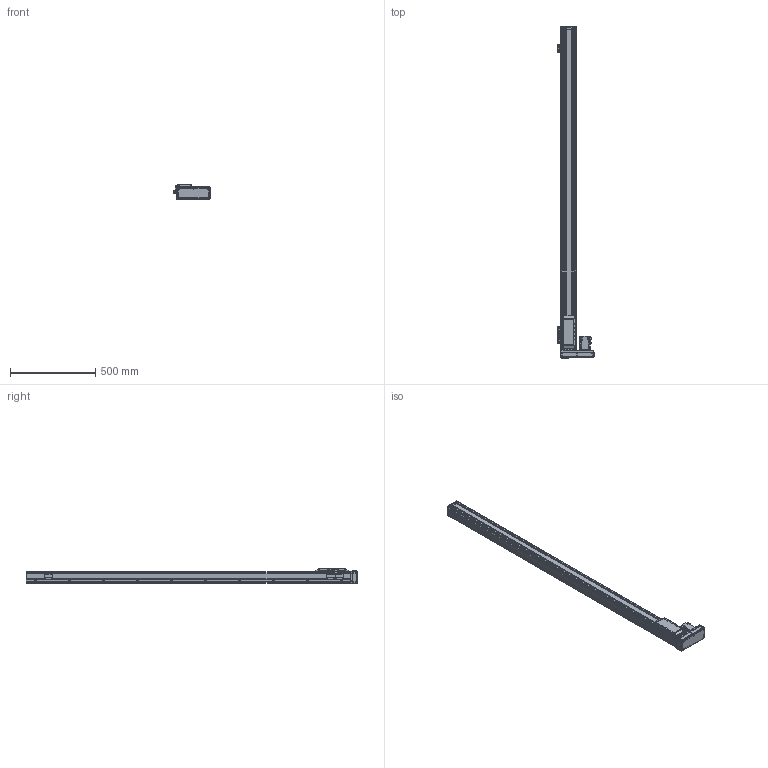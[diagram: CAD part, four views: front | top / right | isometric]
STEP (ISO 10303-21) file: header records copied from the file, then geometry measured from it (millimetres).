
FILE_DESCRIPTION(/* description */ (''),/* implementation_level */ '2;1');
FILE_NAME(/* name */ '\\192.168.0.160\disk1\HAN SHIN Master\B-설계부문\C-표준\B-2024년\BC02-표준도면\+로봇 개선표준도면\표준 승인도 폴더 - 재작업\3D\HC Type\HC90\우병렬\HC90-R20-N1B-1700-L10.stp',/* time_stamp */ '2024-03-15T15:46:27+09:00',/* author */ ('User'),/* organization */ (''),/* preprocessor_version */ 'ST-DEVELOPER v18.1',/* originating_system */ 'Autodesk Inventor 2022',/* authorisation */ '');
FILE_SCHEMA (('AUTOMOTIVE_DESIGN { 1 0 10303 214 3 1 1 }'));
Products named in the file (29): HC90-R20-N1B-0500-L10 - 간소화; HC90 S BASE 200W--; HC75-REAR BLOCK; HC75-REAR BLOCK_1; HC90 REAR COVER; HC90-UP COVER; HC90 SIDE COVER 100W G; STOPPER3; M-5UT; M-5H-4; HC75 TABLE COVER; HC65 TABLE SIDE COVER; HC75,90 SHEET PLATE; LMKE1520 NUT; HC90 TABLE - SR20W - OIL; STOPPER3_1; MOTOR PLATE - 200W; hg-kr23_; HR65-LR-BELT COVER; HC90-BELT COVER-COVER2; HR75-D-BELT COVER-COVER; HC90-BELT COVER-COVER3; 화살표; HC90 LR MOTOR PLATE_MIR; HC75 SENSOR DOG; SENSOR BRK(EE-SX674A); EE_SX674A; hsr_ftht_A-M6F_grease_nipple_joint; NIPPLE CAP(신규)
Assembly tree (39 placements, depth 2):
  HC90-R20-N1B-0500-L10 - 간소화
    HC90 S BASE 200W--
    HC90 SIDE COVER 100W G  x2
    HC75-REAR BLOCK
    HC75-REAR BLOCK_1
    HC90 REAR COVER
    HC90-UP COVER
    STOPPER3
    M-5H-4  x2
    M-5UT
    HC65 TABLE SIDE COVER  x2
    HC75 TABLE COVER
    HC75,90 SHEET PLATE  x3
    LMKE1520 NUT
    HC90 TABLE - SR20W - OIL
    STOPPER3_1
    MOTOR PLATE - 200W
    hg-kr23_
    HR65-LR-BELT COVER
    HC90-BELT COVER-COVER2
    HR75-D-BELT COVER-COVER
    HC90-BELT COVER-COVER3  x2
    화살표  x2
    HC90 LR MOTOR PLATE_MIR
    EE_SX674A  x3
    HC75 SENSOR DOG
    SENSOR BRK(EE-SX674A)  x3
    hsr_ftht_A-M6F_grease_nipple_joint
    NIPPLE CAP(신규)
Bounding box: 215 x 1952 x 88 mm (x, y, z)
Volume: 3573717.8 mm3; surface area: 1906124.2 mm2
Topology: 41 solids, 41 shells, 2859 faces, 7904 edges, 5199 vertices
Faces by surface type: plane 1927, cylinder 716, cone 198, sphere 8, torus 6, bspline 4
Full cylindrical faces by diameter (mm): 1.8 x2, 2.459 x56, 2.5 x3, 3 x8, 3.242 x45, 3.4 x28, 3.5 x16, 4 x2, 4.134 x50, 4.5 x39, 4.917 x3, 5 x29, 5.5 x18, 5.6 x9, 5.8 x4, 5.9 x8, 6 x5, 6.5 x4, 6.8 x1, 7 x3, 8 x2, 9.5 x14, 10.5 x4, 14 x1, 15 x3, 17 x1, 20 x1, 22 x1, 25 x1, 28 x1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
Entity records: 81220 total; most frequent: CARTESIAN_POINT 14802, ORIENTED_EDGE 13444, DIRECTION 12921, EDGE_CURVE 6722, LINE 5209, VECTOR 5209, VERTEX_POINT 4466, AXIS2_PLACEMENT_3D 3856
